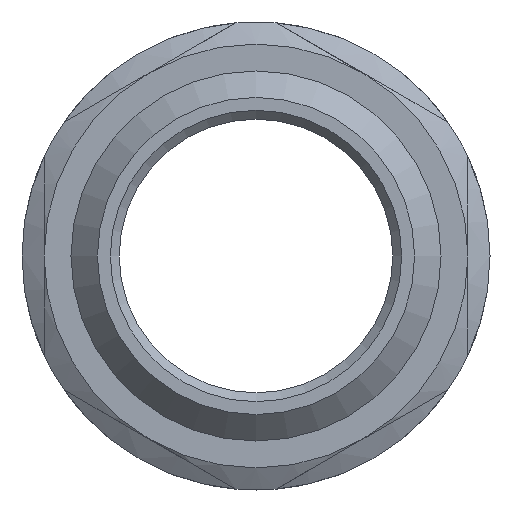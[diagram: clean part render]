
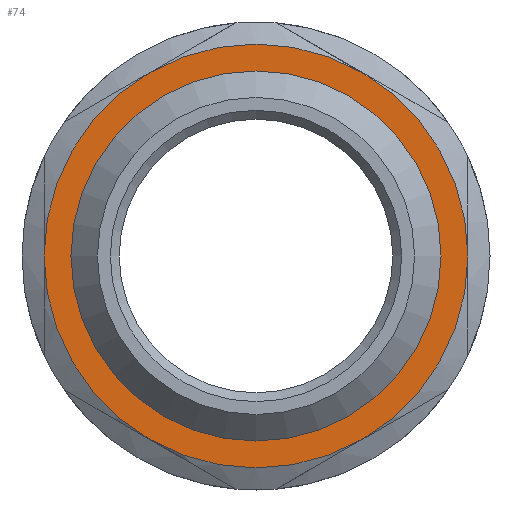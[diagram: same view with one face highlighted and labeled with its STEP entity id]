
A CAD part, front view. The second image highlights one B-rep face of the part: STEP entity #74.
In plain terms, the highlighted planar face has unit normal (0, -1, 0).
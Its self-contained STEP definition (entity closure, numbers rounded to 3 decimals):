
#74=ADVANCED_FACE('',(#311,#313),#315,.F.);
#311=FACE_BOUND('',#312,.T.);
#312=EDGE_LOOP('',(#453,#454,#455,#456,#457,#458));
#313=FACE_BOUND('',#314,.T.);
#314=EDGE_LOOP('',(#459));
#315=PLANE('',#316);
#316=AXIS2_PLACEMENT_3D('',#317,#318,#319);
#317=CARTESIAN_POINT('',(0.,0.,0.));
#318=DIRECTION('',(0.,1.,0.));
#319=DIRECTION('',(-1.,0.,0.));
#453=ORIENTED_EDGE('',*,*,#509,.T.);
#454=ORIENTED_EDGE('',*,*,#505,.T.);
#455=ORIENTED_EDGE('',*,*,#525,.T.);
#456=ORIENTED_EDGE('',*,*,#521,.T.);
#457=ORIENTED_EDGE('',*,*,#517,.T.);
#458=ORIENTED_EDGE('',*,*,#513,.T.);
#459=ORIENTED_EDGE('',*,*,#526,.F.);
#505=EDGE_CURVE('',#607,#604,#608,.F.);
#509=EDGE_CURVE('',#612,#607,#613,.F.);
#513=EDGE_CURVE('',#617,#612,#618,.F.);
#517=EDGE_CURVE('',#623,#617,#624,.F.);
#521=EDGE_CURVE('',#628,#623,#629,.F.);
#525=EDGE_CURVE('',#604,#628,#634,.F.);
#526=EDGE_CURVE('',#635,#635,#636,.T.);
#604=VERTEX_POINT('',#866);
#607=VERTEX_POINT('',#921);
#608=CIRCLE('',#922,12.);
#612=VERTEX_POINT('',#1011);
#613=CIRCLE('',#1012,12.);
#617=VERTEX_POINT('',#1101);
#618=CIRCLE('',#1102,12.);
#623=VERTEX_POINT('',#1211);
#624=CIRCLE('',#1212,12.);
#628=VERTEX_POINT('',#1301);
#629=CIRCLE('',#1302,12.);
#634=CIRCLE('',#1392,12.);
#635=VERTEX_POINT('',#1396);
#636=CIRCLE('',#1397,10.478);
#866=CARTESIAN_POINT('',(-12.,0.,0.));
#921=CARTESIAN_POINT('',(-6.,0.,10.392));
#922=AXIS2_PLACEMENT_3D('',#923,#924,#925);
#923=CARTESIAN_POINT('',(0.,0.,0.));
#924=DIRECTION('',(0.,1.,0.));
#925=DIRECTION('',(-1.,0.,0.));
#1011=CARTESIAN_POINT('',(6.,0.,10.392));
#1012=AXIS2_PLACEMENT_3D('',#1013,#1014,#1015);
#1013=CARTESIAN_POINT('',(0.,0.,0.));
#1014=DIRECTION('',(0.,1.,0.));
#1015=DIRECTION('',(-0.5,0.,0.866));
#1101=CARTESIAN_POINT('',(12.,0.,0.));
#1102=AXIS2_PLACEMENT_3D('',#1103,#1104,#1105);
#1103=CARTESIAN_POINT('',(0.,0.,0.));
#1104=DIRECTION('',(0.,1.,0.));
#1105=DIRECTION('',(0.5,0.,0.866));
#1211=CARTESIAN_POINT('',(6.,0.,-10.392));
#1212=AXIS2_PLACEMENT_3D('',#1213,#1214,#1215);
#1213=CARTESIAN_POINT('',(0.,0.,0.));
#1214=DIRECTION('',(0.,1.,0.));
#1215=DIRECTION('',(1.,0.,0.));
#1301=CARTESIAN_POINT('',(-6.,0.,-10.392));
#1302=AXIS2_PLACEMENT_3D('',#1303,#1304,#1305);
#1303=CARTESIAN_POINT('',(0.,0.,0.));
#1304=DIRECTION('',(0.,1.,0.));
#1305=DIRECTION('',(0.5,0.,-0.866));
#1392=AXIS2_PLACEMENT_3D('',#1393,#1394,#1395);
#1393=CARTESIAN_POINT('',(0.,0.,0.));
#1394=DIRECTION('',(0.,1.,0.));
#1395=DIRECTION('',(-0.5,0.,-0.866));
#1396=CARTESIAN_POINT('',(0.,0.,10.478));
#1397=AXIS2_PLACEMENT_3D('',#1398,#1399,#1400);
#1398=CARTESIAN_POINT('',(0.,0.,0.));
#1399=DIRECTION('',(0.,-1.,0.));
#1400=DIRECTION('',(0.,0.,1.));
